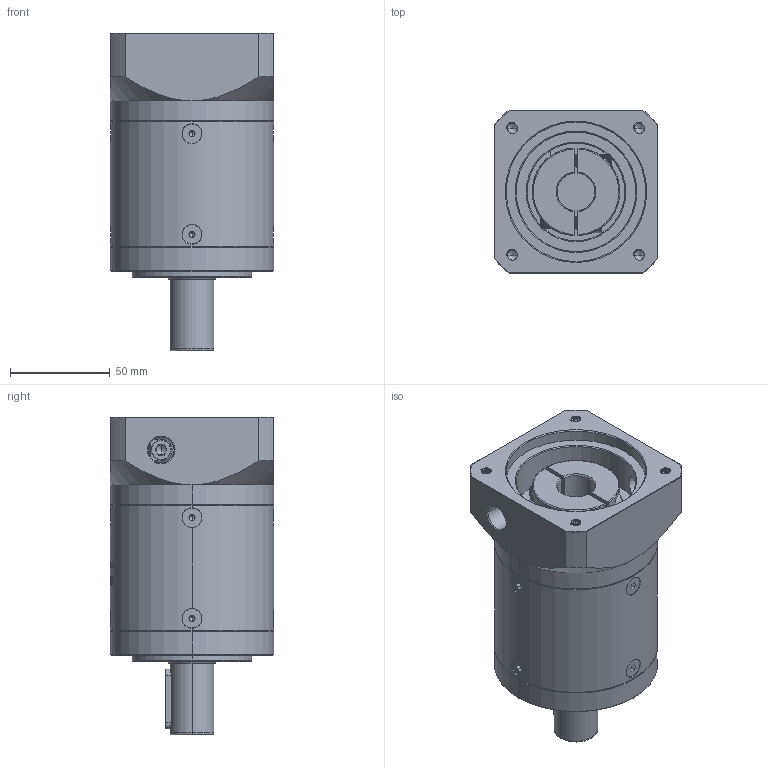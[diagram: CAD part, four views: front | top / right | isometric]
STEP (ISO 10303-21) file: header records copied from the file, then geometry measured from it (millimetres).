
FILE_DESCRIPTION (( 'STEP AP214' ), '1' );
FILE_NAME ('ZE80-D22-L2-19-70-90-M6.step', '2022-05-08T05:54:47', ( '' ), ( 'Microsoft' ), 'SwSTEP 2.0', 'SolidWorks 2016', '' );
FILE_SCHEMA (( 'AUTOMOTIVE_DESIGN' ));
Length unit declared in the file: millimetre
Products named in the file (1): ZE80-D22-L2-19-70-90-M6
Bounding box: 82 x 82 x 159.5 mm (x, y, z)
Volume: 611088.2 mm3; surface area: 88151.2 mm2
Topology: 13 solids, 13 shells, 2057 faces, 5367 edges, 3398 vertices
Faces by surface type: plane 886, cylinder 500, bspline 332, cone 322, torus 17
Entity records: 118320 total; most frequent: CARTESIAN_POINT 49545, ORIENTED_EDGE 10658, DIRECTION 8178, EDGE_CURVE 5329, VERTEX_POINT 3398, LINE 2848, VECTOR 2848, AXIS2_PLACEMENT_3D 2665
